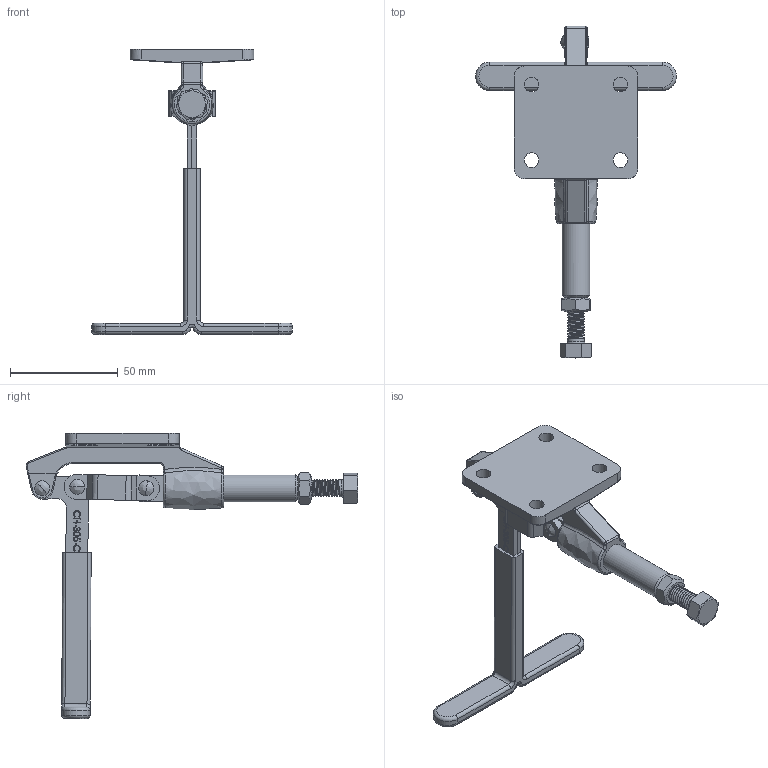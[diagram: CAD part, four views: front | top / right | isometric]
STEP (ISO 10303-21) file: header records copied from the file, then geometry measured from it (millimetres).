
FILE_DESCRIPTION(/* description */ ('STEP AP203'),/* implementation_level */ '2;1');
FILE_NAME(/* name */ 'D:\Vault_2016\Projekty\STRONA\Push-pull clamp\CH-305-CMT\CH-305-CMT_ZAMKNIETY.stp',/* time_stamp */ '2019-01-10T14:45:10+01:00',/* author */ ('user'),/* organization */ ('Î¢ÈíÖÐ¹ú'),/* preprocessor_version */ 'ST-DEVELOPER v17.2',/* originating_system */ 'Autodesk Inventor 2019',/* authorisation */ '');
FILE_SCHEMA (('AUTOMOTIVE_DESIGN { 1 0 10303 214 3 1 1 }'));
Products named in the file (9): CH-305-CMT_ZAMKNIETY; 305-CMT-05_Ä¬ÈÏ; M8 Nut_Ä¬ÈÏ; CH-SA-085012 SPINDLE SUPPLIED_Ä¬ÈÏ; CH-305-CMT T-HANDLE_Ä¬ÈÏ; CH-304-05_Ä¬ÈÏ; CH-304-CM-01 BASE_Ä¬ÈÏ; CH-304-CM-02 CREST STALK_Ä¬ÈÏ; CH-304-04 CONNECTING-PLATE_Ä¬ÈÏ
Assembly tree (11 placements, depth 2):
  CH-305-CMT_ZAMKNIETY
    CH-304-05_Ä¬ÈÏ  x3
    305-CMT-05_Ä¬ÈÏ
    M8 Nut_Ä¬ÈÏ
    CH-304-04 CONNECTING-PLATE_Ä¬ÈÏ  x2
    CH-SA-085012 SPINDLE SUPPLIED_Ä¬ÈÏ
    CH-305-CMT T-HANDLE_Ä¬ÈÏ
    CH-304-CM-01 BASE_Ä¬ÈÏ
    CH-304-CM-02 CREST STALK_Ä¬ÈÏ
Bounding box: 93 x 153.74 x 132.06 mm (x, y, z)
Volume: 57481.1 mm3; surface area: 42781.1 mm2
Topology: 12 solids, 12 shells, 713 faces, 1965 edges, 1298 vertices
Faces by surface type: plane 270, bspline 209, cylinder 188, torus 30, cone 14, sphere 2
Full cylindrical faces by diameter (mm): 1.238 x1, 1.385 x1, 3.022 x3, 4 x14, 6.5 x4, 6.8 x37, 8 x37, 12 x4, 12.7 x2
Entity records: 49821 total; most frequent: CARTESIAN_POINT 33688, ORIENTED_EDGE 3726, DIRECTION 2562, EDGE_CURVE 1863, VERTEX_POINT 1236, LINE 956, VECTOR 956, AXIS2_PLACEMENT_3D 803
